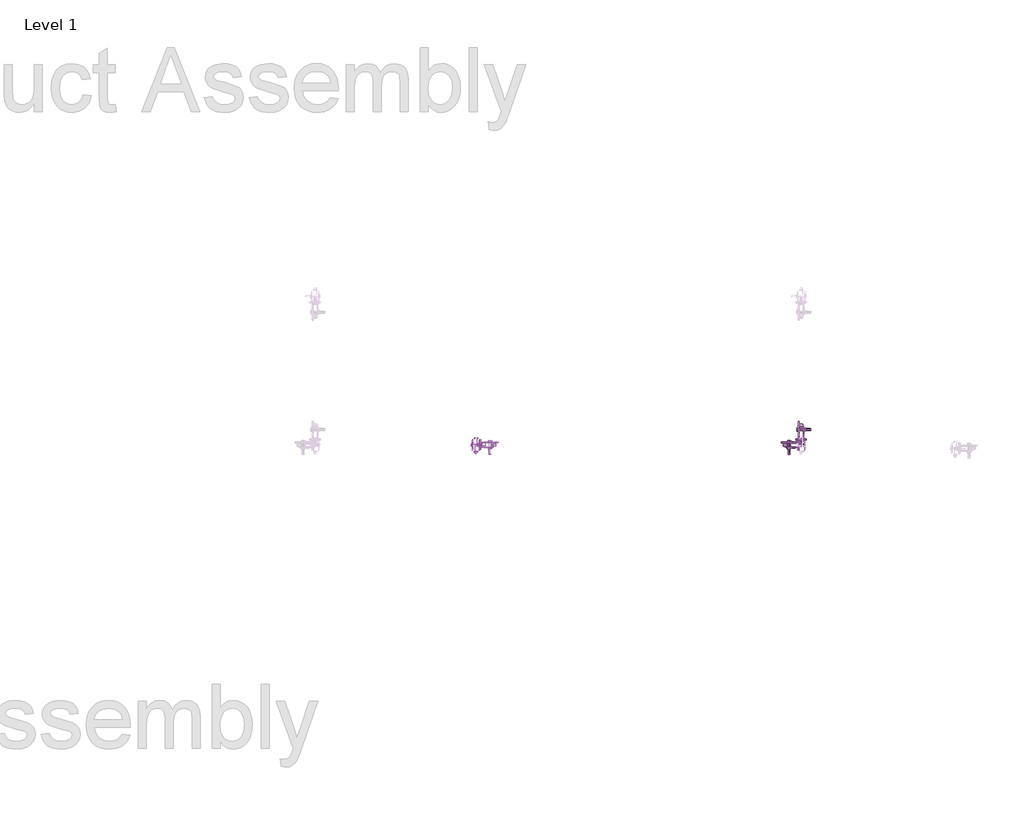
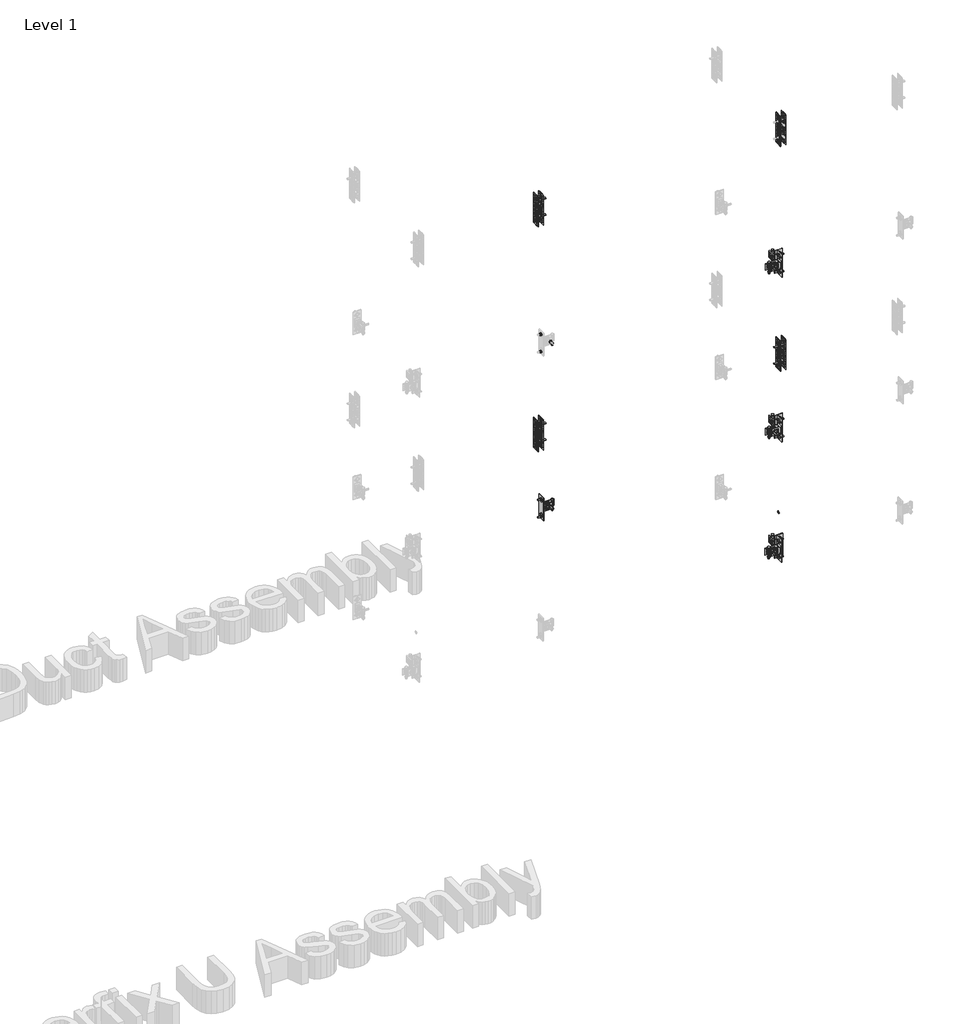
# One storey, part 14 of 32: 143 valves.
"""IFC4 building model written with IfcOpenShell, lengths in millimetres."""

from ifc_helpers import new_model, si_unit, origin, place, context, project, spatial, transform, mapped, element, save
from components import valve_fad8a5b8, hexagon_nut_galvanized_extra_m8_53389388, superfix_hexagon_screw_galvanized_8354a985, superfix_hexagon_screw_galvanized_f0d66714, superfix_hexagon_screw_galvanized_68d17cb7, superfix_hexagon_screw_galvanized_e39b877e, superfix_hexagon_screw_galvanized_3ef5af78, superfix_hexagon_screw_galvanized_3d7df342, superfix_strap_981cfdac, superfix_u_bracket_h_0b8578fe, superfix_u_bracket_h_f60a1122

model = new_model("IFC4")

# Units and contexts
model_context = context("Model", 3, world=origin())
ifc_project = project(units=[si_unit("LENGTHUNIT", "METRE", prefix="MILLI")], contexts=[model_context])

# Site, building, storey
site = spatial("IfcSite", under=ifc_project)
building = spatial("IfcBuilding", under=site)
storey = spatial("IfcBuildingStorey", under=building, Name="Level 1", Elevation=0.0)

# Valves
placement = place(None, origin())
valve_shape = valve_fad8a5b8(model_context)
element("IfcValve", 1, ObjectType="Superfix Flat Washer : Superfix Flat Washer M8x15x1.5", at=placement, inside=storey, context=model_context, shape_type="MappedRepresentation", body=[
    mapped(valve_shape, transform((-16478.3949112, 28765.46055, 700.0), x_axis=(1.0, 0.0, 0.0), y_axis=(0.0, 0.0, 1.0), z_axis=(0.0, -1.0, 0.0))),
])
element("IfcValve", 2, ObjectType="Superfix Flat Washer : Superfix Flat Washer M8x15x1.5", at=placement, inside=storey, context=model_context, shape_type="MappedRepresentation", body=[
    mapped(valve_shape, transform((-16427.3949112, 28777.96055, 758.0), x_axis=(0.0, 0.0, 1.0), y_axis=(0.0, 1.0, 0.0), z_axis=(-1.0, 0.0, 0.0))),
])
element("IfcValve", 3, ObjectType="Superfix Flat Washer : Superfix Flat Washer M8x15x1.5", at=placement, inside=storey, context=model_context, shape_type="MappedRepresentation", body=[
    mapped(valve_shape, transform((-16427.3949112, 28777.96055, 642.0), x_axis=(0.0, 0.0, 1.0), y_axis=(0.0, 1.0, 0.0), z_axis=(-1.0, 0.0, 0.0))),
])
element("IfcValve", 4, ObjectType="Superfix Flat Washer : Superfix Flat Washer M8x15x1.5", at=placement, inside=storey, context=model_context, shape_type="MappedRepresentation", body=[
    mapped(valve_shape, transform((-16498.3949112, 28777.96055, 671.5), x_axis=(1.0, 0.0, 0.0), y_axis=(0.0, -1.0, 0.0), z_axis=(0.0, 0.0, -1.0))),
])
element("IfcValve", 5, ObjectType="Superfix Flat Washer : Superfix Flat Washer M8x15x1.5", at=placement, inside=storey, context=model_context, shape_type="MappedRepresentation", body=[
    mapped(valve_shape, transform((-16475.3949112, 28765.46055, 2600.0), x_axis=(1.0, 0.0, 0.0), y_axis=(0.0, 0.0, 1.0), z_axis=(0.0, -1.0, 0.0))),
])
element("IfcValve", 6, ObjectType="Superfix Flat Washer : Superfix Flat Washer M8x15x1.5", at=placement, inside=storey, context=model_context, shape_type="MappedRepresentation", body=[
    mapped(valve_shape, transform((-17885.3949112, 28765.46055, 2600.0), x_axis=(1.0, 0.0, 0.0), y_axis=(0.0, 0.0, 1.0), z_axis=(0.0, -1.0, 0.0))),
])
element("IfcValve", 7, ObjectType="Superfix Flat Washer : Superfix Flat Washer M8x15x1.5", at=placement, inside=storey, context=model_context, shape_type="MappedRepresentation", body=[
    mapped(valve_shape, transform((-16424.3949112, 28777.96055, 2658.0), x_axis=(0.0, 0.0, 1.0), y_axis=(0.0, 1.0, 0.0), z_axis=(-1.0, 0.0, 0.0))),
])
element("IfcValve", 8, ObjectType="Superfix Flat Washer : Superfix Flat Washer M8x15x1.5", at=placement, inside=storey, context=model_context, shape_type="MappedRepresentation", body=[
    mapped(valve_shape, transform((-17934.7949112, 28777.96055, 2542.0), x_axis=(0.0, 0.0, 1.0), y_axis=(0.0, 1.0, 0.0), z_axis=(-1.0, 0.0, 0.0))),
])
element("IfcValve", 9, ObjectType="Superfix Flat Washer : Superfix Flat Washer M8x15x1.5", at=placement, inside=storey, context=model_context, shape_type="MappedRepresentation", body=[
    mapped(valve_shape, transform((-16424.3949112, 28777.96055, 2542.0), x_axis=(0.0, 0.0, 1.0), y_axis=(0.0, 1.0, 0.0), z_axis=(-1.0, 0.0, 0.0))),
])
element("IfcValve", 10, ObjectType="Superfix Flat Washer : Superfix Flat Washer M8x15x1.5", at=placement, inside=storey, context=model_context, shape_type="MappedRepresentation", body=[
    mapped(valve_shape, transform((-17934.7949112, 28777.96055, 2658.0), x_axis=(0.0, 0.0, 1.0), y_axis=(0.0, 1.0, 0.0), z_axis=(-1.0, 0.0, 0.0))),
])
element("IfcValve", 11, ObjectType="Superfix Flat Washer : Superfix Flat Washer M8x15x1.5", at=placement, inside=storey, context=model_context, shape_type="MappedRepresentation", body=[
    mapped(valve_shape, transform((-17865.3949112, 28777.96055, 2571.5), x_axis=(1.0, 0.0, 0.0), y_axis=(0.0, -1.0, 0.0), z_axis=(0.0, 0.0, -1.0))),
])
element("IfcValve", 12, ObjectType="Superfix Flat Washer : Superfix Flat Washer M8x15x1.5", at=placement, inside=storey, context=model_context, shape_type="MappedRepresentation", body=[
    mapped(valve_shape, transform((-16495.3949112, 28777.96055, 2571.5), x_axis=(1.0, 0.0, 0.0), y_axis=(0.0, -1.0, 0.0), z_axis=(0.0, 0.0, -1.0))),
])
element("IfcValve", 13, ObjectType="Superfix Flat Washer : Superfix Flat Washer M8x15x1.5", at=placement, inside=storey, context=model_context, shape_type="MappedRepresentation", body=[
    mapped(valve_shape, transform((-16475.3949112, 28765.46055, 1500.0), x_axis=(1.0, 0.0, 0.0), y_axis=(0.0, 0.0, 1.0), z_axis=(0.0, -1.0, 0.0))),
])
element("IfcValve", 14, ObjectType="Superfix Flat Washer : Superfix Flat Washer M8x15x1.5", at=placement, inside=storey, context=model_context, shape_type="MappedRepresentation", body=[
    mapped(valve_shape, transform((-17885.3949112, 28765.46055, 1500.0), x_axis=(1.0, 0.0, 0.0), y_axis=(0.0, 0.0, 1.0), z_axis=(0.0, -1.0, 0.0))),
])
element("IfcValve", 15, ObjectType="Superfix Flat Washer : Superfix Flat Washer M8x15x1.5", at=placement, inside=storey, context=model_context, shape_type="MappedRepresentation", body=[
    mapped(valve_shape, transform((-16424.3949112, 28777.96055, 1558.0), x_axis=(0.0, 0.0, 1.0), y_axis=(0.0, 1.0, 0.0), z_axis=(-1.0, 0.0, 0.0))),
])
element("IfcValve", 16, ObjectType="Superfix Flat Washer : Superfix Flat Washer M8x15x1.5", at=placement, inside=storey, context=model_context, shape_type="MappedRepresentation", body=[
    mapped(valve_shape, transform((-17934.7949112, 28777.96055, 1442.0), x_axis=(0.0, 0.0, 1.0), y_axis=(0.0, 1.0, 0.0), z_axis=(-1.0, 0.0, 0.0))),
])
element("IfcValve", 17, ObjectType="Superfix Flat Washer : Superfix Flat Washer M8x15x1.5", at=placement, inside=storey, context=model_context, shape_type="MappedRepresentation", body=[
    mapped(valve_shape, transform((-16424.3949112, 28777.96055, 1442.0), x_axis=(0.0, 0.0, 1.0), y_axis=(0.0, 1.0, 0.0), z_axis=(-1.0, 0.0, 0.0))),
])
element("IfcValve", 18, ObjectType="Superfix Flat Washer : Superfix Flat Washer M8x15x1.5", at=placement, inside=storey, context=model_context, shape_type="MappedRepresentation", body=[
    mapped(valve_shape, transform((-17934.7949112, 28777.96055, 1558.0), x_axis=(0.0, 0.0, 1.0), y_axis=(0.0, 1.0, 0.0), z_axis=(-1.0, 0.0, 0.0))),
])
element("IfcValve", 19, ObjectType="Superfix Flat Washer : Superfix Flat Washer M8x15x1.5", at=placement, inside=storey, context=model_context, shape_type="MappedRepresentation", body=[
    mapped(valve_shape, transform((-17865.3949112, 28777.96055, 1471.5), x_axis=(1.0, 0.0, 0.0), y_axis=(0.0, -1.0, 0.0), z_axis=(0.0, 0.0, -1.0))),
])
element("IfcValve", 20, ObjectType="Superfix Flat Washer : Superfix Flat Washer M8x15x1.5", at=placement, inside=storey, context=model_context, shape_type="MappedRepresentation", body=[
    mapped(valve_shape, transform((-16495.3949112, 28777.96055, 1471.5), x_axis=(1.0, 0.0, 0.0), y_axis=(0.0, -1.0, 0.0), z_axis=(0.0, 0.0, -1.0))),
])
element("IfcValve", 21, ObjectType="Superfix Flat Washer : Superfix Flat Washer M8x15x1.5", at=placement, inside=storey, context=model_context, shape_type="MappedRepresentation", body=[
    mapped(valve_shape, transform((-16407.8949112, 28851.96055, 2600.0), x_axis=(0.0, 1.0, 0.0), y_axis=(0.0, 0.0, 1.0), z_axis=(1.0, 0.0, 0.0))),
])
element("IfcValve", 22, ObjectType="Superfix Flat Washer : Superfix Flat Washer M8x15x1.5", at=placement, inside=storey, context=model_context, shape_type="MappedRepresentation", body=[
    mapped(valve_shape, transform((-16420.3949112, 28802.56055, 2542.0), x_axis=(0.0, 0.0, 1.0), y_axis=(-1.0, 0.0, 0.0), z_axis=(0.0, -1.0, 0.0))),
])
element("IfcValve", 23, ObjectType="Superfix Flat Washer : Superfix Flat Washer M8x15x1.5", at=placement, inside=storey, context=model_context, shape_type="MappedRepresentation", body=[
    mapped(valve_shape, transform((-16420.3949112, 28802.56055, 2658.0), x_axis=(0.0, 0.0, 1.0), y_axis=(-1.0, 0.0, 0.0), z_axis=(0.0, -1.0, 0.0))),
])
element("IfcValve", 24, ObjectType="Superfix Flat Washer : Superfix Flat Washer M8x15x1.5", at=placement, inside=storey, context=model_context, shape_type="MappedRepresentation", body=[
    mapped(valve_shape, transform((-16420.3949112, 28871.96055, 2571.5), x_axis=(0.0, 1.0, 0.0), y_axis=(1.0, 0.0, 0.0), z_axis=(0.0, 0.0, -1.0))),
])
element("IfcValve", 25, ObjectType="Superfix Flat Washer : Superfix Flat Washer M8x15x1.5", at=placement, inside=storey, context=model_context, shape_type="MappedRepresentation", body=[
    mapped(valve_shape, transform((-16407.8949112, 28851.96055, 1500.0), x_axis=(0.0, 1.0, 0.0), y_axis=(0.0, 0.0, 1.0), z_axis=(1.0, 0.0, 0.0))),
])
element("IfcValve", 26, ObjectType="Superfix Flat Washer : Superfix Flat Washer M8x15x1.5", at=placement, inside=storey, context=model_context, shape_type="MappedRepresentation", body=[
    mapped(valve_shape, transform((-16420.3949112, 28802.56055, 1442.0), x_axis=(0.0, 0.0, 1.0), y_axis=(-1.0, 0.0, 0.0), z_axis=(0.0, -1.0, 0.0))),
])
element("IfcValve", 27, ObjectType="Superfix Flat Washer : Superfix Flat Washer M8x15x1.5", at=placement, inside=storey, context=model_context, shape_type="MappedRepresentation", body=[
    mapped(valve_shape, transform((-16420.3949112, 28802.56055, 1558.0), x_axis=(0.0, 0.0, 1.0), y_axis=(-1.0, 0.0, 0.0), z_axis=(0.0, -1.0, 0.0))),
])
element("IfcValve", 28, ObjectType="Superfix Flat Washer : Superfix Flat Washer M8x15x1.5", at=placement, inside=storey, context=model_context, shape_type="MappedRepresentation", body=[
    mapped(valve_shape, transform((-16420.3949112, 28871.96055, 1471.5), x_axis=(0.0, 1.0, 0.0), y_axis=(1.0, 0.0, 0.0), z_axis=(0.0, 0.0, -1.0))),
])
element("IfcValve", 29, ObjectType="Superfix Flat Washer : Superfix Flat Washer M8x15x1.5", at=placement, inside=storey, context=model_context, shape_type="MappedRepresentation", body=[
    mapped(valve_shape, transform((-16407.8949112, 28850.96055, 700.0), x_axis=(0.0, 1.0, 0.0), y_axis=(0.0, 0.0, 1.0), z_axis=(1.0, 0.0, 0.0))),
])
element("IfcValve", 30, ObjectType="Superfix Flat Washer : Superfix Flat Washer M8x15x1.5", at=placement, inside=storey, context=model_context, shape_type="MappedRepresentation", body=[
    mapped(valve_shape, transform((-16420.3949112, 28801.56055, 642.0), x_axis=(0.0, 0.0, 1.0), y_axis=(-1.0, 0.0, 0.0), z_axis=(0.0, -1.0, 0.0))),
])
element("IfcValve", 31, ObjectType="Superfix Flat Washer : Superfix Flat Washer M8x15x1.5", at=placement, inside=storey, context=model_context, shape_type="MappedRepresentation", body=[
    mapped(valve_shape, transform((-16420.3949112, 28801.56055, 758.0), x_axis=(0.0, 0.0, 1.0), y_axis=(-1.0, 0.0, 0.0), z_axis=(0.0, -1.0, 0.0))),
])
element("IfcValve", 32, ObjectType="Superfix Flat Washer : Superfix Flat Washer M8x15x1.5", at=placement, inside=storey, context=model_context, shape_type="MappedRepresentation", body=[
    mapped(valve_shape, transform((-16420.3949112, 28870.96055, 671.5), x_axis=(0.0, 1.0, 0.0), y_axis=(1.0, 0.0, 0.0), z_axis=(0.0, 0.0, -1.0))),
])
element("IfcValve", 33, ObjectType="Superfix Flat Washer : Superfix Flat Washer M8x15x1.5", at=placement, inside=storey, context=model_context, shape_type="MappedRepresentation", body=[
    mapped(valve_shape, transform((-16437.9949112, 28777.96055, 2055.0), x_axis=(0.0, 1.0, 0.0), y_axis=(0.0, 0.0, 1.0), z_axis=(1.0, 0.0, 0.0))),
])
element("IfcValve", 34, ObjectType="Superfix Flat Washer : Superfix Flat Washer M8x15x1.5", at=placement, inside=storey, context=model_context, shape_type="MappedRepresentation", body=[
    mapped(valve_shape, transform((-16437.9949112, 28777.96055, 945.0), x_axis=(0.0, 1.0, 0.0), y_axis=(0.0, 0.0, 1.0), z_axis=(1.0, 0.0, 0.0))),
])
element("IfcValve", 35, ObjectType="Superfix Flat Washer : Superfix Flat Washer M8x15x1.5", at=placement, inside=storey, context=model_context, shape_type="MappedRepresentation", body=[
    mapped(valve_shape, transform((-17936.3949112, 28777.96055, 1945.0), x_axis=(0.0, 1.0, 0.0), y_axis=(0.0, 0.0, 1.0), z_axis=(1.0, 0.0, 0.0))),
])
element("IfcValve", 36, ObjectType="Superfix Flat Washer : Superfix Flat Washer M8x15x1.5", at=placement, inside=storey, context=model_context, shape_type="MappedRepresentation", body=[
    mapped(valve_shape, transform((-17936.3949112, 28777.96055, 2055.0), x_axis=(0.0, 1.0, 0.0), y_axis=(0.0, 0.0, 1.0), z_axis=(1.0, 0.0, 0.0))),
])
element("IfcValve", 37, ObjectType="Superfix Flat Washer : Superfix Flat Washer M8x15x1.5", at=placement, inside=storey, context=model_context, shape_type="MappedRepresentation", body=[
    mapped(valve_shape, transform((-16420.3949112, 28749.46055, 2040.0), x_axis=(1.0, 0.0, 0.0), y_axis=(0.0, 0.0, 1.0), z_axis=(0.0, -1.0, 0.0))),
])
element("IfcValve", 38, ObjectType="Superfix Flat Washer : Superfix Flat Washer M8x15x1.5", at=placement, inside=storey, context=model_context, shape_type="MappedRepresentation", body=[
    mapped(valve_shape, transform((-16420.3949112, 28749.46055, 1960.0), x_axis=(1.0, 0.0, 0.0), y_axis=(0.0, 0.0, 1.0), z_axis=(0.0, -1.0, 0.0))),
])
element("IfcValve", 39, ObjectType="Superfix Flat Washer : Superfix Flat Washer M8x15x1.5", at=placement, inside=storey, context=model_context, shape_type="MappedRepresentation", body=[
    mapped(valve_shape, transform((-17952.3949112, 28749.46055, 2040.0), x_axis=(1.0, 0.0, 0.0), y_axis=(0.0, 0.0, 1.0), z_axis=(0.0, -1.0, 0.0))),
])
element("IfcValve", 40, ObjectType="Superfix Flat Washer : Superfix Flat Washer M8x15x1.5", at=placement, inside=storey, context=model_context, shape_type="MappedRepresentation", body=[
    mapped(valve_shape, transform((-17952.3949112, 28749.46055, 1960.0), x_axis=(1.0, 0.0, 0.0), y_axis=(0.0, 0.0, 1.0), z_axis=(0.0, -1.0, 0.0))),
])
element("IfcValve", 41, ObjectType="Superfix Flat Washer : Superfix Flat Washer M8x15x1.5", at=placement, inside=storey, context=model_context, shape_type="MappedRepresentation", body=[
    mapped(valve_shape, transform((-17936.3949112, 28777.96055, 3445.0), x_axis=(0.0, 1.0, 0.0), y_axis=(0.0, 0.0, 1.0), z_axis=(1.0, 0.0, 0.0))),
])
element("IfcValve", 42, ObjectType="Superfix Flat Washer : Superfix Flat Washer M8x15x1.5", at=placement, inside=storey, context=model_context, shape_type="MappedRepresentation", body=[
    mapped(valve_shape, transform((-17936.3949112, 28777.96055, 3555.0), x_axis=(0.0, 1.0, 0.0), y_axis=(0.0, 0.0, 1.0), z_axis=(1.0, 0.0, 0.0))),
])
element("IfcValve", 43, ObjectType="Superfix Flat Washer : Superfix Flat Washer M8x15x1.5", at=placement, inside=storey, context=model_context, shape_type="MappedRepresentation", body=[
    mapped(valve_shape, transform((-17952.3949112, 28749.46055, 3540.0), x_axis=(1.0, 0.0, 0.0), y_axis=(0.0, 0.0, 1.0), z_axis=(0.0, -1.0, 0.0))),
])
element("IfcValve", 44, ObjectType="Superfix Flat Washer : Superfix Flat Washer M8x15x1.5", at=placement, inside=storey, context=model_context, shape_type="MappedRepresentation", body=[
    mapped(valve_shape, transform((-17952.3949112, 28749.46055, 3460.0), x_axis=(1.0, 0.0, 0.0), y_axis=(0.0, 0.0, 1.0), z_axis=(0.0, -1.0, 0.0))),
])
hexagon_nut_galvanized_extra_m8_shape = hexagon_nut_galvanized_extra_m8_53389388(model_context)
element("IfcValve", 45, ObjectType="Superfix Hexagon Nut Galvanized : Hexagon Nut Galvanized M8", at=placement, inside=storey, context=model_context, shape_type="MappedRepresentation", body=[
    mapped(hexagon_nut_galvanized_extra_m8_shape, transform((-16478.3949112, 28765.46055, 700.0), x_axis=(1.0, 0.0, 0.0), y_axis=(0.0, 0.0, 1.0), z_axis=(0.0, -1.0, 0.0))),
])
element("IfcValve", 46, ObjectType="Superfix Hexagon Nut Galvanized : Hexagon Nut Galvanized M8", at=placement, inside=storey, context=model_context, shape_type="MappedRepresentation", body=[
    mapped(hexagon_nut_galvanized_extra_m8_shape, transform((-16498.3949112, 28777.96055, 665.0), x_axis=(0.0, 1.0, 0.0), y_axis=(-1.0, 0.0, 0.0), z_axis=(0.0, 0.0, 1.0))),
])
element("IfcValve", 47, ObjectType="Superfix Hexagon Nut Galvanized : Hexagon Nut Galvanized M8", at=placement, inside=storey, context=model_context, shape_type="MappedRepresentation", body=[
    mapped(hexagon_nut_galvanized_extra_m8_shape, transform((-16420.8949112, 28777.96055, 642.0), x_axis=(0.0, 0.0, 1.0), y_axis=(0.0, 1.0, 0.0), z_axis=(-1.0, 0.0, 0.0))),
])
element("IfcValve", 48, ObjectType="Superfix Hexagon Nut Galvanized : Hexagon Nut Galvanized M8", at=placement, inside=storey, context=model_context, shape_type="MappedRepresentation", body=[
    mapped(hexagon_nut_galvanized_extra_m8_shape, transform((-16420.8949112, 28777.96055, 758.0), x_axis=(0.0, 0.0, 1.0), y_axis=(0.0, 1.0, 0.0), z_axis=(-1.0, 0.0, 0.0))),
])
element("IfcValve", 49, ObjectType="Superfix Hexagon Nut Galvanized : Hexagon Nut Galvanized M8", at=placement, inside=storey, context=model_context, shape_type="MappedRepresentation", body=[
    mapped(hexagon_nut_galvanized_extra_m8_shape, transform((-16475.3949112, 28765.46055, 2600.0), x_axis=(1.0, 0.0, 0.0), y_axis=(0.0, 0.0, 1.0), z_axis=(0.0, -1.0, 0.0))),
])
element("IfcValve", 50, ObjectType="Superfix Hexagon Nut Galvanized : Hexagon Nut Galvanized M8", at=placement, inside=storey, context=model_context, shape_type="MappedRepresentation", body=[
    mapped(hexagon_nut_galvanized_extra_m8_shape, transform((-16495.3949112, 28777.96055, 2565.0), x_axis=(0.0, 1.0, 0.0), y_axis=(-1.0, 0.0, 0.0), z_axis=(0.0, 0.0, 1.0))),
])
element("IfcValve", 51, ObjectType="Superfix Hexagon Nut Galvanized : Hexagon Nut Galvanized M8", at=placement, inside=storey, context=model_context, shape_type="MappedRepresentation", body=[
    mapped(hexagon_nut_galvanized_extra_m8_shape, transform((-16417.8949112, 28777.96055, 2542.0), x_axis=(0.0, 0.0, 1.0), y_axis=(0.0, 1.0, 0.0), z_axis=(-1.0, 0.0, 0.0))),
])
element("IfcValve", 52, ObjectType="Superfix Hexagon Nut Galvanized : Hexagon Nut Galvanized M8", at=placement, inside=storey, context=model_context, shape_type="MappedRepresentation", body=[
    mapped(hexagon_nut_galvanized_extra_m8_shape, transform((-16417.8949112, 28777.96055, 2658.0), x_axis=(0.0, 0.0, 1.0), y_axis=(0.0, 1.0, 0.0), z_axis=(-1.0, 0.0, 0.0))),
])
element("IfcValve", 53, ObjectType="Superfix Hexagon Nut Galvanized : Hexagon Nut Galvanized M8", at=placement, inside=storey, context=model_context, shape_type="MappedRepresentation", body=[
    mapped(hexagon_nut_galvanized_extra_m8_shape, transform((-16475.3949112, 28765.46055, 1500.0), x_axis=(1.0, 0.0, 0.0), y_axis=(0.0, 0.0, 1.0), z_axis=(0.0, -1.0, 0.0))),
])
element("IfcValve", 54, ObjectType="Superfix Hexagon Nut Galvanized : Hexagon Nut Galvanized M8", at=placement, inside=storey, context=model_context, shape_type="MappedRepresentation", body=[
    mapped(hexagon_nut_galvanized_extra_m8_shape, transform((-16495.3949112, 28777.96055, 1465.0), x_axis=(0.0, 1.0, 0.0), y_axis=(-1.0, 0.0, 0.0), z_axis=(0.0, 0.0, 1.0))),
])
element("IfcValve", 55, ObjectType="Superfix Hexagon Nut Galvanized : Hexagon Nut Galvanized M8", at=placement, inside=storey, context=model_context, shape_type="MappedRepresentation", body=[
    mapped(hexagon_nut_galvanized_extra_m8_shape, transform((-16417.8949112, 28777.96055, 1442.0), x_axis=(0.0, 0.0, 1.0), y_axis=(0.0, 1.0, 0.0), z_axis=(-1.0, 0.0, 0.0))),
])
element("IfcValve", 56, ObjectType="Superfix Hexagon Nut Galvanized : Hexagon Nut Galvanized M8", at=placement, inside=storey, context=model_context, shape_type="MappedRepresentation", body=[
    mapped(hexagon_nut_galvanized_extra_m8_shape, transform((-16417.8949112, 28777.96055, 1558.0), x_axis=(0.0, 0.0, 1.0), y_axis=(0.0, 1.0, 0.0), z_axis=(-1.0, 0.0, 0.0))),
])
element("IfcValve", 57, ObjectType="Superfix Hexagon Nut Galvanized : Hexagon Nut Galvanized M8", at=placement, inside=storey, context=model_context, shape_type="MappedRepresentation", body=[
    mapped(hexagon_nut_galvanized_extra_m8_shape, transform((-17885.3949112, 28765.46055, 2600.0), x_axis=(-1.0, 0.0, 0.0), y_axis=(0.0, 0.0, -1.0), z_axis=(0.0, -1.0, 0.0))),
])
element("IfcValve", 58, ObjectType="Superfix Hexagon Nut Galvanized : Hexagon Nut Galvanized M8", at=placement, inside=storey, context=model_context, shape_type="MappedRepresentation", body=[
    mapped(hexagon_nut_galvanized_extra_m8_shape, transform((-17865.3949112, 28777.96055, 2565.0), x_axis=(0.0, 1.0, 0.0), y_axis=(-1.0, 0.0, 0.0), z_axis=(0.0, 0.0, 1.0))),
])
element("IfcValve", 59, ObjectType="Superfix Hexagon Nut Galvanized : Hexagon Nut Galvanized M8", at=placement, inside=storey, context=model_context, shape_type="MappedRepresentation", body=[
    mapped(hexagon_nut_galvanized_extra_m8_shape, transform((-17942.8949112, 28777.96055, 2542.0), x_axis=(0.0, 0.0, 1.0), y_axis=(0.0, -1.0, 0.0), z_axis=(1.0, 0.0, 0.0))),
])
element("IfcValve", 60, ObjectType="Superfix Hexagon Nut Galvanized : Hexagon Nut Galvanized M8", at=placement, inside=storey, context=model_context, shape_type="MappedRepresentation", body=[
    mapped(hexagon_nut_galvanized_extra_m8_shape, transform((-17942.8949112, 28777.96055, 2658.0), x_axis=(0.0, 0.0, 1.0), y_axis=(0.0, -1.0, 0.0), z_axis=(1.0, 0.0, 0.0))),
])
element("IfcValve", 61, ObjectType="Superfix Hexagon Nut Galvanized : Hexagon Nut Galvanized M8", at=placement, inside=storey, context=model_context, shape_type="MappedRepresentation", body=[
    mapped(hexagon_nut_galvanized_extra_m8_shape, transform((-17885.3949112, 28765.46055, 1500.0), x_axis=(-1.0, 0.0, 0.0), y_axis=(0.0, 0.0, -1.0), z_axis=(0.0, -1.0, 0.0))),
])
element("IfcValve", 62, ObjectType="Superfix Hexagon Nut Galvanized : Hexagon Nut Galvanized M8", at=placement, inside=storey, context=model_context, shape_type="MappedRepresentation", body=[
    mapped(hexagon_nut_galvanized_extra_m8_shape, transform((-17865.3949112, 28777.96055, 1465.0), x_axis=(0.0, 1.0, 0.0), y_axis=(-1.0, 0.0, 0.0), z_axis=(0.0, 0.0, 1.0))),
])
element("IfcValve", 63, ObjectType="Superfix Hexagon Nut Galvanized : Hexagon Nut Galvanized M8", at=placement, inside=storey, context=model_context, shape_type="MappedRepresentation", body=[
    mapped(hexagon_nut_galvanized_extra_m8_shape, transform((-17942.8949112, 28777.96055, 1442.0), x_axis=(0.0, 0.0, 1.0), y_axis=(0.0, -1.0, 0.0), z_axis=(1.0, 0.0, 0.0))),
])
element("IfcValve", 64, ObjectType="Superfix Hexagon Nut Galvanized : Hexagon Nut Galvanized M8", at=placement, inside=storey, context=model_context, shape_type="MappedRepresentation", body=[
    mapped(hexagon_nut_galvanized_extra_m8_shape, transform((-17942.8949112, 28777.96055, 1558.0), x_axis=(0.0, 0.0, 1.0), y_axis=(0.0, -1.0, 0.0), z_axis=(1.0, 0.0, 0.0))),
])
element("IfcValve", 65, ObjectType="Superfix Hexagon Nut Galvanized : Hexagon Nut Galvanized M8", at=placement, inside=storey, context=model_context, shape_type="MappedRepresentation", body=[
    mapped(hexagon_nut_galvanized_extra_m8_shape, transform((-16407.8949112, 28851.96055, 2600.0), x_axis=(0.0, -1.0, 0.0), y_axis=(0.0, 0.0, -1.0), z_axis=(1.0, 0.0, 0.0))),
])
element("IfcValve", 66, ObjectType="Superfix Hexagon Nut Galvanized : Hexagon Nut Galvanized M8", at=placement, inside=storey, context=model_context, shape_type="MappedRepresentation", body=[
    mapped(hexagon_nut_galvanized_extra_m8_shape, transform((-16420.3949112, 28871.96055, 2565.0), x_axis=(-1.0, 0.0, 0.0), y_axis=(0.0, -1.0, 0.0), z_axis=(0.0, 0.0, 1.0))),
])
element("IfcValve", 67, ObjectType="Superfix Hexagon Nut Galvanized : Hexagon Nut Galvanized M8", at=placement, inside=storey, context=model_context, shape_type="MappedRepresentation", body=[
    mapped(hexagon_nut_galvanized_extra_m8_shape, transform((-16420.3949112, 28794.46055, 2542.0), x_axis=(0.0, 0.0, 1.0), y_axis=(1.0, 0.0, 0.0), z_axis=(0.0, 1.0, 0.0))),
])
element("IfcValve", 68, ObjectType="Superfix Hexagon Nut Galvanized : Hexagon Nut Galvanized M8", at=placement, inside=storey, context=model_context, shape_type="MappedRepresentation", body=[
    mapped(hexagon_nut_galvanized_extra_m8_shape, transform((-16420.3949112, 28794.46055, 2658.0), x_axis=(0.0, 0.0, 1.0), y_axis=(1.0, 0.0, 0.0), z_axis=(0.0, 1.0, 0.0))),
])
element("IfcValve", 69, ObjectType="Superfix Hexagon Nut Galvanized : Hexagon Nut Galvanized M8", at=placement, inside=storey, context=model_context, shape_type="MappedRepresentation", body=[
    mapped(hexagon_nut_galvanized_extra_m8_shape, transform((-16407.8949112, 28851.96055, 1500.0), x_axis=(0.0, -1.0, 0.0), y_axis=(0.0, 0.0, -1.0), z_axis=(1.0, 0.0, 0.0))),
])
element("IfcValve", 70, ObjectType="Superfix Hexagon Nut Galvanized : Hexagon Nut Galvanized M8", at=placement, inside=storey, context=model_context, shape_type="MappedRepresentation", body=[
    mapped(hexagon_nut_galvanized_extra_m8_shape, transform((-16420.3949112, 28871.96055, 1465.0), x_axis=(-1.0, 0.0, 0.0), y_axis=(0.0, -1.0, 0.0), z_axis=(0.0, 0.0, 1.0))),
])
element("IfcValve", 71, ObjectType="Superfix Hexagon Nut Galvanized : Hexagon Nut Galvanized M8", at=placement, inside=storey, context=model_context, shape_type="MappedRepresentation", body=[
    mapped(hexagon_nut_galvanized_extra_m8_shape, transform((-16420.3949112, 28794.46055, 1442.0), x_axis=(0.0, 0.0, 1.0), y_axis=(1.0, 0.0, 0.0), z_axis=(0.0, 1.0, 0.0))),
])
element("IfcValve", 72, ObjectType="Superfix Hexagon Nut Galvanized : Hexagon Nut Galvanized M8", at=placement, inside=storey, context=model_context, shape_type="MappedRepresentation", body=[
    mapped(hexagon_nut_galvanized_extra_m8_shape, transform((-16420.3949112, 28794.46055, 1558.0), x_axis=(0.0, 0.0, 1.0), y_axis=(1.0, 0.0, 0.0), z_axis=(0.0, 1.0, 0.0))),
])
element("IfcValve", 73, ObjectType="Superfix Hexagon Nut Galvanized : Hexagon Nut Galvanized M8", at=placement, inside=storey, context=model_context, shape_type="MappedRepresentation", body=[
    mapped(hexagon_nut_galvanized_extra_m8_shape, transform((-16407.8949112, 28850.96055, 700.0), x_axis=(0.0, -1.0, 0.0), y_axis=(0.0, 0.0, -1.0), z_axis=(1.0, 0.0, 0.0))),
])
element("IfcValve", 74, ObjectType="Superfix Hexagon Nut Galvanized : Hexagon Nut Galvanized M8", at=placement, inside=storey, context=model_context, shape_type="MappedRepresentation", body=[
    mapped(hexagon_nut_galvanized_extra_m8_shape, transform((-16420.3949112, 28870.96055, 665.0), x_axis=(-1.0, 0.0, 0.0), y_axis=(0.0, -1.0, 0.0), z_axis=(0.0, 0.0, 1.0))),
])
element("IfcValve", 75, ObjectType="Superfix Hexagon Nut Galvanized : Hexagon Nut Galvanized M8", at=placement, inside=storey, context=model_context, shape_type="MappedRepresentation", body=[
    mapped(hexagon_nut_galvanized_extra_m8_shape, transform((-16420.3949112, 28793.46055, 642.0), x_axis=(0.0, 0.0, 1.0), y_axis=(1.0, 0.0, 0.0), z_axis=(0.0, 1.0, 0.0))),
])
element("IfcValve", 76, ObjectType="Superfix Hexagon Nut Galvanized : Hexagon Nut Galvanized M8", at=placement, inside=storey, context=model_context, shape_type="MappedRepresentation", body=[
    mapped(hexagon_nut_galvanized_extra_m8_shape, transform((-16420.3949112, 28793.46055, 758.0), x_axis=(0.0, 0.0, 1.0), y_axis=(1.0, 0.0, 0.0), z_axis=(0.0, 1.0, 0.0))),
])
element("IfcValve", 77, ObjectType="Superfix Hexagon Nut Galvanized : Hexagon Nut Galvanized M8", at=placement, inside=storey, context=model_context, shape_type="MappedRepresentation", body=[
    mapped(hexagon_nut_galvanized_extra_m8_shape, transform((-16436.3949112, 28777.96055, 2055.0), x_axis=(0.0, 1.0, 0.0), y_axis=(0.0, 0.0, -1.0), z_axis=(-1.0, 0.0, 0.0))),
])
element("IfcValve", 78, ObjectType="Superfix Hexagon Nut Galvanized : Hexagon Nut Galvanized M8", at=placement, inside=storey, context=model_context, shape_type="MappedRepresentation", body=[
    mapped(hexagon_nut_galvanized_extra_m8_shape, transform((-17936.3949112, 28777.96055, 2055.0), x_axis=(0.0, 1.0, 0.0), y_axis=(0.0, 0.0, 1.0), z_axis=(1.0, 0.0, 0.0))),
])
element("IfcValve", 79, ObjectType="Superfix Hexagon Nut Galvanized : Hexagon Nut Galvanized M8", at=placement, inside=storey, context=model_context, shape_type="MappedRepresentation", body=[
    mapped(hexagon_nut_galvanized_extra_m8_shape, transform((-16436.3949112, 28777.96055, 1945.0), x_axis=(0.0, 1.0, 0.0), y_axis=(0.0, 0.0, -1.0), z_axis=(-1.0, 0.0, 0.0))),
])
element("IfcValve", 80, ObjectType="Superfix Hexagon Nut Galvanized : Hexagon Nut Galvanized M8", at=placement, inside=storey, context=model_context, shape_type="MappedRepresentation", body=[
    mapped(hexagon_nut_galvanized_extra_m8_shape, transform((-17936.3949112, 28777.96055, 1945.0), x_axis=(0.0, 1.0, 0.0), y_axis=(0.0, 0.0, 1.0), z_axis=(1.0, 0.0, 0.0))),
])
element("IfcValve", 81, ObjectType="Superfix Hexagon Nut Galvanized : Hexagon Nut Galvanized M8", at=placement, inside=storey, context=model_context, shape_type="MappedRepresentation", body=[
    mapped(hexagon_nut_galvanized_extra_m8_shape, transform((-16420.3949112, 28749.46055, 2040.0), x_axis=(1.0, 0.0, 0.0), y_axis=(0.0, 0.0, 1.0), z_axis=(0.0, -1.0, 0.0))),
])
element("IfcValve", 82, ObjectType="Superfix Hexagon Nut Galvanized : Hexagon Nut Galvanized M8", at=placement, inside=storey, context=model_context, shape_type="MappedRepresentation", body=[
    mapped(hexagon_nut_galvanized_extra_m8_shape, transform((-16420.3949112, 28749.46055, 1960.0), x_axis=(1.0, 0.0, 0.0), y_axis=(0.0, 0.0, 1.0), z_axis=(0.0, -1.0, 0.0))),
])
element("IfcValve", 83, ObjectType="Superfix Hexagon Nut Galvanized : Hexagon Nut Galvanized M8", at=placement, inside=storey, context=model_context, shape_type="MappedRepresentation", body=[
    mapped(hexagon_nut_galvanized_extra_m8_shape, transform((-17952.3949112, 28749.46055, 2040.0), x_axis=(1.0, 0.0, 0.0), y_axis=(0.0, 0.0, 1.0), z_axis=(0.0, -1.0, 0.0))),
])
element("IfcValve", 84, ObjectType="Superfix Hexagon Nut Galvanized : Hexagon Nut Galvanized M8", at=placement, inside=storey, context=model_context, shape_type="MappedRepresentation", body=[
    mapped(hexagon_nut_galvanized_extra_m8_shape, transform((-17952.3949112, 28749.46055, 1960.0), x_axis=(1.0, 0.0, 0.0), y_axis=(0.0, 0.0, 1.0), z_axis=(0.0, -1.0, 0.0))),
])
element("IfcValve", 85, ObjectType="Superfix Hexagon Nut Galvanized : Hexagon Nut Galvanized M8", at=placement, inside=storey, context=model_context, shape_type="MappedRepresentation", body=[
    mapped(hexagon_nut_galvanized_extra_m8_shape, transform((-17936.3949112, 28777.96055, 3555.0), x_axis=(0.0, 1.0, 0.0), y_axis=(0.0, 0.0, 1.0), z_axis=(1.0, 0.0, 0.0))),
])
element("IfcValve", 86, ObjectType="Superfix Hexagon Nut Galvanized : Hexagon Nut Galvanized M8", at=placement, inside=storey, context=model_context, shape_type="MappedRepresentation", body=[
    mapped(hexagon_nut_galvanized_extra_m8_shape, transform((-17936.3949112, 28777.96055, 3445.0), x_axis=(0.0, 1.0, 0.0), y_axis=(0.0, 0.0, 1.0), z_axis=(1.0, 0.0, 0.0))),
])
element("IfcValve", 87, ObjectType="Superfix Hexagon Nut Galvanized : Hexagon Nut Galvanized M8", at=placement, inside=storey, context=model_context, shape_type="MappedRepresentation", body=[
    mapped(hexagon_nut_galvanized_extra_m8_shape, transform((-17952.3949112, 28749.46055, 3540.0), x_axis=(1.0, 0.0, 0.0), y_axis=(0.0, 0.0, 1.0), z_axis=(0.0, -1.0, 0.0))),
])
element("IfcValve", 88, ObjectType="Superfix Hexagon Nut Galvanized : Hexagon Nut Galvanized M8", at=placement, inside=storey, context=model_context, shape_type="MappedRepresentation", body=[
    mapped(hexagon_nut_galvanized_extra_m8_shape, transform((-17952.3949112, 28749.46055, 3460.0), x_axis=(1.0, 0.0, 0.0), y_axis=(0.0, 0.0, 1.0), z_axis=(0.0, -1.0, 0.0))),
])
superfix_hexagon_screw_galvanized_shape = superfix_hexagon_screw_galvanized_8354a985(model_context)
element("IfcValve", 89, ObjectType="SuperFix Hexagon Screw Galvanized : Hexagon Screw Galvanized M8 × 25", at=placement, inside=storey, context=model_context, shape_type="MappedRepresentation", body=[
    mapped(superfix_hexagon_screw_galvanized_shape, transform((-17930.3949112, 28777.96055, 1558.0), x_axis=(0.0, 0.0, 1.0), y_axis=(0.0, -1.0, 0.0), z_axis=(1.0, 0.0, 0.0))),
])
element("IfcValve", 90, ObjectType="SuperFix Hexagon Screw Galvanized : Hexagon Screw Galvanized M8 × 25", at=placement, inside=storey, context=model_context, shape_type="MappedRepresentation", body=[
    mapped(superfix_hexagon_screw_galvanized_shape, transform((-17930.3949112, 28777.96055, 1442.0), x_axis=(0.0, 0.0, 1.0), y_axis=(0.0, -1.0, 0.0), z_axis=(1.0, 0.0, 0.0))),
])
element("IfcValve", 91, ObjectType="SuperFix Hexagon Screw Galvanized : Hexagon Screw Galvanized M8 × 25", at=placement, inside=storey, context=model_context, shape_type="MappedRepresentation", body=[
    mapped(superfix_hexagon_screw_galvanized_shape, transform((-16420.3949112, 28806.96055, 2658.0), x_axis=(0.0, 0.0, 1.0), y_axis=(1.0, 0.0, 0.0), z_axis=(0.0, 1.0, 0.0))),
])
element("IfcValve", 92, ObjectType="SuperFix Hexagon Screw Galvanized : Hexagon Screw Galvanized M8 × 25", at=placement, inside=storey, context=model_context, shape_type="MappedRepresentation", body=[
    mapped(superfix_hexagon_screw_galvanized_shape, transform((-16420.3949112, 28806.96055, 2542.0), x_axis=(0.0, 0.0, 1.0), y_axis=(1.0, 0.0, 0.0), z_axis=(0.0, 1.0, 0.0))),
])
element("IfcValve", 93, ObjectType="SuperFix Hexagon Screw Galvanized : Hexagon Screw Galvanized M8 × 25", at=placement, inside=storey, context=model_context, shape_type="MappedRepresentation", body=[
    mapped(superfix_hexagon_screw_galvanized_shape, transform((-16420.3949112, 28806.96055, 1558.0), x_axis=(0.0, 0.0, 1.0), y_axis=(1.0, 0.0, 0.0), z_axis=(0.0, 1.0, 0.0))),
])
element("IfcValve", 94, ObjectType="SuperFix Hexagon Screw Galvanized : Hexagon Screw Galvanized M8 × 25", at=placement, inside=storey, context=model_context, shape_type="MappedRepresentation", body=[
    mapped(superfix_hexagon_screw_galvanized_shape, transform((-16420.3949112, 28806.96055, 1442.0), x_axis=(0.0, 0.0, 1.0), y_axis=(1.0, 0.0, 0.0), z_axis=(0.0, 1.0, 0.0))),
])
element("IfcValve", 95, ObjectType="SuperFix Hexagon Screw Galvanized : Hexagon Screw Galvanized M8 × 25", at=placement, inside=storey, context=model_context, shape_type="MappedRepresentation", body=[
    mapped(superfix_hexagon_screw_galvanized_shape, transform((-16420.3949112, 28805.96055, 758.0), x_axis=(0.0, 0.0, 1.0), y_axis=(1.0, 0.0, 0.0), z_axis=(0.0, 1.0, 0.0))),
])
element("IfcValve", 96, ObjectType="SuperFix Hexagon Screw Galvanized : Hexagon Screw Galvanized M8 × 25", at=placement, inside=storey, context=model_context, shape_type="MappedRepresentation", body=[
    mapped(superfix_hexagon_screw_galvanized_shape, transform((-16420.3949112, 28805.96055, 642.0), x_axis=(0.0, 0.0, 1.0), y_axis=(1.0, 0.0, 0.0), z_axis=(0.0, 1.0, 0.0))),
])
superfix_hexagon_screw_galvanized_2_shape = superfix_hexagon_screw_galvanized_f0d66714(model_context)
element("IfcValve", 97, ObjectType="SuperFix Hexagon Screw Galvanized : Hexagon Screw Galvanized M8 × 60", at=placement, inside=storey, context=model_context, shape_type="MappedRepresentation", body=[
    mapped(superfix_hexagon_screw_galvanized_2_shape, transform((-16478.3949112, 28793.46055, 700.0), x_axis=(0.0, 0.0, 1.0), y_axis=(1.0, 0.0, 0.0), z_axis=(0.0, 1.0, 0.0))),
])
element("IfcValve", 98, ObjectType="SuperFix Hexagon Screw Galvanized : Hexagon Screw Galvanized M8 × 60", at=placement, inside=storey, context=model_context, shape_type="MappedRepresentation", body=[
    mapped(superfix_hexagon_screw_galvanized_2_shape, transform((-16475.3949112, 28793.46055, 2600.0), x_axis=(0.0, 0.0, 1.0), y_axis=(1.0, 0.0, 0.0), z_axis=(0.0, 1.0, 0.0))),
])
element("IfcValve", 99, ObjectType="SuperFix Hexagon Screw Galvanized : Hexagon Screw Galvanized M8 × 60", at=placement, inside=storey, context=model_context, shape_type="MappedRepresentation", body=[
    mapped(superfix_hexagon_screw_galvanized_2_shape, transform((-16475.3949112, 28793.46055, 1500.0), x_axis=(0.0, 0.0, 1.0), y_axis=(1.0, 0.0, 0.0), z_axis=(0.0, 1.0, 0.0))),
])
superfix_hexagon_screw_galvanized_3_shape = superfix_hexagon_screw_galvanized_68d17cb7(model_context)
element("IfcValve", 100, ObjectType="SuperFix Hexagon Screw Galvanized : Hexagon Screw Galvanized M8 × 70", at=placement, inside=storey, context=model_context, shape_type="MappedRepresentation", body=[
    mapped(superfix_hexagon_screw_galvanized_3_shape, transform((-16498.3949112, 28777.96055, 728.5), x_axis=(0.0, 1.0, 0.0), y_axis=(-1.0, 0.0, 0.0), z_axis=(0.0, 0.0, 1.0))),
])
element("IfcValve", 101, ObjectType="SuperFix Hexagon Screw Galvanized : Hexagon Screw Galvanized M8 × 70", at=placement, inside=storey, context=model_context, shape_type="MappedRepresentation", body=[
    mapped(superfix_hexagon_screw_galvanized_3_shape, transform((-16495.3949112, 28777.96055, 2628.5), x_axis=(0.0, 1.0, 0.0), y_axis=(-1.0, 0.0, 0.0), z_axis=(0.0, 0.0, 1.0))),
])
element("IfcValve", 102, ObjectType="SuperFix Hexagon Screw Galvanized : Hexagon Screw Galvanized M8 × 70", at=placement, inside=storey, context=model_context, shape_type="MappedRepresentation", body=[
    mapped(superfix_hexagon_screw_galvanized_3_shape, transform((-16495.3949112, 28777.96055, 1528.5), x_axis=(0.0, 1.0, 0.0), y_axis=(-1.0, 0.0, 0.0), z_axis=(0.0, 0.0, 1.0))),
])
superfix_hexagon_screw_galvanized_4_shape = superfix_hexagon_screw_galvanized_e39b877e(model_context)
element("IfcValve", 103, ObjectType="SuperFix Hexagon Screw Galvanized : Hexagon Screw Galvanized M8 × 25", at=placement, inside=storey, context=model_context, shape_type="MappedRepresentation", body=[
    mapped(superfix_hexagon_screw_galvanized_4_shape, transform((-16433.3949112, 28777.96055, 758.0), x_axis=(0.0, 0.0, 1.0), y_axis=(0.0, 1.0, 0.0), z_axis=(-1.0, 0.0, 0.0))),
])
element("IfcValve", 104, ObjectType="SuperFix Hexagon Screw Galvanized : Hexagon Screw Galvanized M8 × 25", at=placement, inside=storey, context=model_context, shape_type="MappedRepresentation", body=[
    mapped(superfix_hexagon_screw_galvanized_4_shape, transform((-16433.3949112, 28777.96055, 642.0), x_axis=(0.0, 0.0, 1.0), y_axis=(0.0, 1.0, 0.0), z_axis=(-1.0, 0.0, 0.0))),
])
element("IfcValve", 105, ObjectType="SuperFix Hexagon Screw Galvanized : Hexagon Screw Galvanized M8 × 25", at=placement, inside=storey, context=model_context, shape_type="MappedRepresentation", body=[
    mapped(superfix_hexagon_screw_galvanized_4_shape, transform((-16430.3949112, 28777.96055, 2658.0), x_axis=(0.0, 0.0, 1.0), y_axis=(0.0, 1.0, 0.0), z_axis=(-1.0, 0.0, 0.0))),
])
element("IfcValve", 106, ObjectType="SuperFix Hexagon Screw Galvanized : Hexagon Screw Galvanized M8 × 25", at=placement, inside=storey, context=model_context, shape_type="MappedRepresentation", body=[
    mapped(superfix_hexagon_screw_galvanized_4_shape, transform((-16430.3949112, 28777.96055, 2542.0), x_axis=(0.0, 0.0, 1.0), y_axis=(0.0, 1.0, 0.0), z_axis=(-1.0, 0.0, 0.0))),
])
element("IfcValve", 107, ObjectType="SuperFix Hexagon Screw Galvanized : Hexagon Screw Galvanized M8 × 25", at=placement, inside=storey, context=model_context, shape_type="MappedRepresentation", body=[
    mapped(superfix_hexagon_screw_galvanized_4_shape, transform((-16430.3949112, 28777.96055, 1558.0), x_axis=(0.0, 0.0, 1.0), y_axis=(0.0, 1.0, 0.0), z_axis=(-1.0, 0.0, 0.0))),
])
element("IfcValve", 108, ObjectType="SuperFix Hexagon Screw Galvanized : Hexagon Screw Galvanized M8 × 25", at=placement, inside=storey, context=model_context, shape_type="MappedRepresentation", body=[
    mapped(superfix_hexagon_screw_galvanized_4_shape, transform((-16430.3949112, 28777.96055, 1442.0), x_axis=(0.0, 0.0, 1.0), y_axis=(0.0, 1.0, 0.0), z_axis=(-1.0, 0.0, 0.0))),
])
superfix_hexagon_screw_galvanized_5_shape = superfix_hexagon_screw_galvanized_3ef5af78(model_context)
element("IfcValve", 109, ObjectType="SuperFix Hexagon Screw Galvanized : Hexagon Screw Galvanized M8 × 60", at=placement, inside=storey, context=model_context, shape_type="MappedRepresentation", body=[
    mapped(superfix_hexagon_screw_galvanized_5_shape, transform((-17885.3949112, 28793.46055, 1500.0), x_axis=(0.0, 0.0, 1.0), y_axis=(1.0, 0.0, 0.0), z_axis=(0.0, 1.0, 0.0))),
])
element("IfcValve", 110, ObjectType="SuperFix Hexagon Screw Galvanized : Hexagon Screw Galvanized M8 × 60", at=placement, inside=storey, context=model_context, shape_type="MappedRepresentation", body=[
    mapped(superfix_hexagon_screw_galvanized_5_shape, transform((-16435.8949112, 28851.96055, 2600.0), x_axis=(0.0, 0.0, 1.0), y_axis=(0.0, 1.0, 0.0), z_axis=(-1.0, 0.0, 0.0))),
])
element("IfcValve", 111, ObjectType="SuperFix Hexagon Screw Galvanized : Hexagon Screw Galvanized M8 × 60", at=placement, inside=storey, context=model_context, shape_type="MappedRepresentation", body=[
    mapped(superfix_hexagon_screw_galvanized_5_shape, transform((-16435.8949112, 28851.96055, 1500.0), x_axis=(0.0, 0.0, 1.0), y_axis=(0.0, 1.0, 0.0), z_axis=(-1.0, 0.0, 0.0))),
])
element("IfcValve", 112, ObjectType="SuperFix Hexagon Screw Galvanized : Hexagon Screw Galvanized M8 × 60", at=placement, inside=storey, context=model_context, shape_type="MappedRepresentation", body=[
    mapped(superfix_hexagon_screw_galvanized_5_shape, transform((-16435.8949112, 28850.96055, 700.0), x_axis=(0.0, 0.0, 1.0), y_axis=(0.0, 1.0, 0.0), z_axis=(-1.0, 0.0, 0.0))),
])
element("IfcValve", 113, ObjectType="SuperFix Hexagon Screw Galvanized : Hexagon Screw Galvanized M8 × 60", at=placement, inside=storey, context=model_context, shape_type="MappedRepresentation", body=[
    mapped(superfix_hexagon_screw_galvanized_5_shape, transform((-16405.3949112, 28777.96055, 1945.0), x_axis=(0.0, 1.0, 0.0), y_axis=(0.0, 0.0, 1.0), z_axis=(1.0, 0.0, 0.0))),
])
element("IfcValve", 114, ObjectType="SuperFix Hexagon Screw Galvanized : Hexagon Screw Galvanized M8 × 60", at=placement, inside=storey, context=model_context, shape_type="MappedRepresentation", body=[
    mapped(superfix_hexagon_screw_galvanized_5_shape, transform((-16405.3949112, 28777.96055, 2055.0), x_axis=(0.0, 1.0, 0.0), y_axis=(0.0, 0.0, 1.0), z_axis=(1.0, 0.0, 0.0))),
])
element("IfcValve", 115, ObjectType="SuperFix Hexagon Screw Galvanized : Hexagon Screw Galvanized M8 × 60", at=placement, inside=storey, context=model_context, shape_type="MappedRepresentation", body=[
    mapped(superfix_hexagon_screw_galvanized_5_shape, transform((-17967.3949112, 28777.96055, 2055.0), x_axis=(0.0, 1.0, 0.0), y_axis=(0.0, 0.0, -1.0), z_axis=(-1.0, 0.0, 0.0))),
])
element("IfcValve", 116, ObjectType="SuperFix Hexagon Screw Galvanized : Hexagon Screw Galvanized M8 × 60", at=placement, inside=storey, context=model_context, shape_type="MappedRepresentation", body=[
    mapped(superfix_hexagon_screw_galvanized_5_shape, transform((-17967.3949112, 28777.96055, 1945.0), x_axis=(0.0, 1.0, 0.0), y_axis=(0.0, 0.0, -1.0), z_axis=(-1.0, 0.0, 0.0))),
])
element("IfcValve", 117, ObjectType="SuperFix Hexagon Screw Galvanized : Hexagon Screw Galvanized M8 × 60", at=placement, inside=storey, context=model_context, shape_type="MappedRepresentation", body=[
    mapped(superfix_hexagon_screw_galvanized_5_shape, transform((-17967.3949112, 28777.96055, 3555.0), x_axis=(0.0, 1.0, 0.0), y_axis=(0.0, 0.0, -1.0), z_axis=(-1.0, 0.0, 0.0))),
])
element("IfcValve", 118, ObjectType="SuperFix Hexagon Screw Galvanized : Hexagon Screw Galvanized M8 × 60", at=placement, inside=storey, context=model_context, shape_type="MappedRepresentation", body=[
    mapped(superfix_hexagon_screw_galvanized_5_shape, transform((-17967.3949112, 28777.96055, 3445.0), x_axis=(0.0, 1.0, 0.0), y_axis=(0.0, 0.0, -1.0), z_axis=(-1.0, 0.0, 0.0))),
])
superfix_hexagon_screw_galvanized_6_shape = superfix_hexagon_screw_galvanized_3d7df342(model_context)
element("IfcValve", 119, ObjectType="SuperFix Hexagon Screw Galvanized : Hexagon Screw Galvanized M8 × 70", at=placement, inside=storey, context=model_context, shape_type="MappedRepresentation", body=[
    mapped(superfix_hexagon_screw_galvanized_6_shape, transform((-17865.3949112, 28777.96055, 1528.5), x_axis=(0.0, 1.0, 0.0), y_axis=(-1.0, 0.0, 0.0), z_axis=(0.0, 0.0, 1.0))),
])
element("IfcValve", 120, ObjectType="SuperFix Hexagon Screw Galvanized : Hexagon Screw Galvanized M8 × 70", at=placement, inside=storey, context=model_context, shape_type="MappedRepresentation", body=[
    mapped(superfix_hexagon_screw_galvanized_6_shape, transform((-16420.3949112, 28871.96055, 2628.5), x_axis=(-1.0, 0.0, 0.0), y_axis=(0.0, -1.0, 0.0), z_axis=(0.0, 0.0, 1.0))),
])
element("IfcValve", 121, ObjectType="SuperFix Hexagon Screw Galvanized : Hexagon Screw Galvanized M8 × 70", at=placement, inside=storey, context=model_context, shape_type="MappedRepresentation", body=[
    mapped(superfix_hexagon_screw_galvanized_6_shape, transform((-16420.3949112, 28871.96055, 1528.5), x_axis=(-1.0, 0.0, 0.0), y_axis=(0.0, -1.0, 0.0), z_axis=(0.0, 0.0, 1.0))),
])
element("IfcValve", 122, ObjectType="SuperFix Hexagon Screw Galvanized : Hexagon Screw Galvanized M8 × 70", at=placement, inside=storey, context=model_context, shape_type="MappedRepresentation", body=[
    mapped(superfix_hexagon_screw_galvanized_6_shape, transform((-16420.3949112, 28870.96055, 728.5), x_axis=(-1.0, 0.0, 0.0), y_axis=(0.0, -1.0, 0.0), z_axis=(0.0, 0.0, 1.0))),
])
element("IfcValve", 123, ObjectType="SuperFix Hexagon Screw Galvanized : Hexagon Screw Galvanized M8 × 70", at=placement, inside=storey, context=model_context, shape_type="MappedRepresentation", body=[
    mapped(superfix_hexagon_screw_galvanized_6_shape, transform((-16420.3949112, 28805.96055, 2040.0), x_axis=(1.0, 0.0, 0.0), y_axis=(0.0, 0.0, -1.0), z_axis=(0.0, 1.0, 0.0))),
])
element("IfcValve", 124, ObjectType="SuperFix Hexagon Screw Galvanized : Hexagon Screw Galvanized M8 × 70", at=placement, inside=storey, context=model_context, shape_type="MappedRepresentation", body=[
    mapped(superfix_hexagon_screw_galvanized_6_shape, transform((-16420.3949112, 28805.96055, 1960.0), x_axis=(1.0, 0.0, 0.0), y_axis=(0.0, 0.0, -1.0), z_axis=(0.0, 1.0, 0.0))),
])
element("IfcValve", 125, ObjectType="SuperFix Hexagon Screw Galvanized : Hexagon Screw Galvanized M8 × 70", at=placement, inside=storey, context=model_context, shape_type="MappedRepresentation", body=[
    mapped(superfix_hexagon_screw_galvanized_6_shape, transform((-17952.3949112, 28805.96055, 2040.0), x_axis=(1.0, 0.0, 0.0), y_axis=(0.0, 0.0, -1.0), z_axis=(0.0, 1.0, 0.0))),
])
element("IfcValve", 126, ObjectType="SuperFix Hexagon Screw Galvanized : Hexagon Screw Galvanized M8 × 70", at=placement, inside=storey, context=model_context, shape_type="MappedRepresentation", body=[
    mapped(superfix_hexagon_screw_galvanized_6_shape, transform((-17952.3949112, 28805.96055, 1960.0), x_axis=(1.0, 0.0, 0.0), y_axis=(0.0, 0.0, -1.0), z_axis=(0.0, 1.0, 0.0))),
])
element("IfcValve", 127, ObjectType="SuperFix Hexagon Screw Galvanized : Hexagon Screw Galvanized M8 × 70", at=placement, inside=storey, context=model_context, shape_type="MappedRepresentation", body=[
    mapped(superfix_hexagon_screw_galvanized_6_shape, transform((-17952.3949112, 28805.96055, 3540.0), x_axis=(1.0, 0.0, 0.0), y_axis=(0.0, 0.0, -1.0), z_axis=(0.0, 1.0, 0.0))),
])
element("IfcValve", 128, ObjectType="SuperFix Hexagon Screw Galvanized : Hexagon Screw Galvanized M8 × 70", at=placement, inside=storey, context=model_context, shape_type="MappedRepresentation", body=[
    mapped(superfix_hexagon_screw_galvanized_6_shape, transform((-17952.3949112, 28805.96055, 3460.0), x_axis=(1.0, 0.0, 0.0), y_axis=(0.0, 0.0, -1.0), z_axis=(0.0, 1.0, 0.0))),
])
superfix_strap_shape = superfix_strap_981cfdac(model_context)
element("IfcValve", 129, ObjectType="Superfix Strap : SuperFix Strap", at=placement, inside=storey, context=model_context, shape_type="MappedRepresentation", body=[
    mapped(superfix_strap_shape, transform((-17936.3949112, 28777.96055, 2000.0), x_axis=(0.0, 0.0, -1.0), y_axis=(0.0, 1.0, 0.0), z_axis=(1.0, 0.0, 0.0))),
])
element("IfcValve", 130, ObjectType="Superfix Strap : SuperFix Strap", at=placement, inside=storey, context=model_context, shape_type="MappedRepresentation", body=[
    mapped(superfix_strap_shape, transform((-16438.3949112, 28777.96055, 2000.0), x_axis=(0.0, 0.0, -1.0), y_axis=(0.0, 1.0, 0.0), z_axis=(1.0, 0.0, 0.0))),
])
element("IfcValve", 131, ObjectType="Superfix Strap : SuperFix Strap", at=placement, inside=storey, context=model_context, shape_type="MappedRepresentation", body=[
    mapped(superfix_strap_shape, transform((-16405.3949112, 28777.96055, 2000.0), x_axis=(0.0, 0.0, -1.0), y_axis=(0.0, 1.0, 0.0), z_axis=(1.0, 0.0, 0.0))),
])
element("IfcValve", 132, ObjectType="Superfix Strap : SuperFix Strap", at=placement, inside=storey, context=model_context, shape_type="MappedRepresentation", body=[
    mapped(superfix_strap_shape, transform((-17969.3949112, 28777.96055, 2000.0), x_axis=(0.0, 0.0, -1.0), y_axis=(0.0, 1.0, 0.0), z_axis=(1.0, 0.0, 0.0))),
])
element("IfcValve", 133, ObjectType="Superfix Strap : SuperFix Strap", at=placement, inside=storey, context=model_context, shape_type="MappedRepresentation", body=[
    mapped(superfix_strap_shape, transform((-17936.3949112, 28777.96055, 3500.0), x_axis=(0.0, 0.0, -1.0), y_axis=(0.0, 1.0, 0.0), z_axis=(1.0, 0.0, 0.0))),
])
element("IfcValve", 134, ObjectType="Superfix Strap : SuperFix Strap", at=placement, inside=storey, context=model_context, shape_type="MappedRepresentation", body=[
    mapped(superfix_strap_shape, transform((-16438.3949112, 28777.96055, 3500.0), x_axis=(0.0, 0.0, -1.0), y_axis=(0.0, 1.0, 0.0), z_axis=(1.0, 0.0, 0.0))),
])
element("IfcValve", 135, ObjectType="Superfix Strap : SuperFix Strap", at=placement, inside=storey, context=model_context, shape_type="MappedRepresentation", body=[
    mapped(superfix_strap_shape, transform((-16405.3949112, 28777.96055, 3500.0), x_axis=(0.0, 0.0, -1.0), y_axis=(0.0, 1.0, 0.0), z_axis=(1.0, 0.0, 0.0))),
])
element("IfcValve", 136, ObjectType="Superfix Strap : SuperFix Strap", at=placement, inside=storey, context=model_context, shape_type="MappedRepresentation", body=[
    mapped(superfix_strap_shape, transform((-17969.3949112, 28777.96055, 3500.0), x_axis=(0.0, 0.0, -1.0), y_axis=(0.0, 1.0, 0.0), z_axis=(1.0, 0.0, 0.0))),
])
superfix_u_bracket_h_shape = superfix_u_bracket_h_0b8578fe(model_context)
element("IfcValve", 137, ObjectType="SuperFix U Bracket (H) : Superfix U Bracket (H)", at=placement, inside=storey, context=model_context, shape_type="MappedRepresentation", body=[
    mapped(superfix_u_bracket_h_shape, transform((-16430.3949112, 28765.46055, 700.0), x_axis=(1.0, 0.0, 0.0), y_axis=(0.0, 0.0, -1.0), z_axis=(0.0, 1.0, 0.0))),
])
element("IfcValve", 138, ObjectType="SuperFix U Bracket (H) : Superfix U Bracket (H)", at=placement, inside=storey, context=model_context, shape_type="MappedRepresentation", body=[
    mapped(superfix_u_bracket_h_shape, transform((-16427.3949112, 28765.46055, 2600.0), x_axis=(1.0, 0.0, 0.0), y_axis=(0.0, 0.0, -1.0), z_axis=(0.0, 1.0, 0.0))),
])
element("IfcValve", 139, ObjectType="SuperFix U Bracket (H) : Superfix U Bracket (H)", at=placement, inside=storey, context=model_context, shape_type="MappedRepresentation", body=[
    mapped(superfix_u_bracket_h_shape, transform((-16427.3949112, 28765.46055, 1500.0), x_axis=(1.0, 0.0, 0.0), y_axis=(0.0, 0.0, -1.0), z_axis=(0.0, 1.0, 0.0))),
])
superfix_u_bracket_h_2_shape = superfix_u_bracket_h_f60a1122(model_context)
element("IfcValve", 140, ObjectType="SuperFix U Bracket (H) : Superfix U Bracket (H)", at=placement, inside=storey, context=model_context, shape_type="MappedRepresentation", body=[
    mapped(superfix_u_bracket_h_2_shape, transform((-17933.3949112, 28765.46055, 1500.0), x_axis=(-1.0, 0.0, 0.0), y_axis=(0.0, 0.0, 1.0), z_axis=(0.0, 1.0, 0.0))),
])
element("IfcValve", 141, ObjectType="SuperFix U Bracket (H) : Superfix U Bracket (H)", at=placement, inside=storey, context=model_context, shape_type="MappedRepresentation", body=[
    mapped(superfix_u_bracket_h_2_shape, transform((-16407.8949112, 28803.96055, 2600.0), x_axis=(0.0, -1.0, 0.0), y_axis=(0.0, 0.0, 1.0), z_axis=(-1.0, 0.0, 0.0))),
])
element("IfcValve", 142, ObjectType="SuperFix U Bracket (H) : Superfix U Bracket (H)", at=placement, inside=storey, context=model_context, shape_type="MappedRepresentation", body=[
    mapped(superfix_u_bracket_h_2_shape, transform((-16407.8949112, 28803.96055, 1500.0), x_axis=(0.0, -1.0, 0.0), y_axis=(0.0, 0.0, 1.0), z_axis=(-1.0, 0.0, 0.0))),
])
element("IfcValve", 143, ObjectType="SuperFix U Bracket (H) : Superfix U Bracket (H)", at=placement, inside=storey, context=model_context, shape_type="MappedRepresentation", body=[
    mapped(superfix_u_bracket_h_2_shape, transform((-16407.8949112, 28802.96055, 700.0), x_axis=(0.0, -1.0, 0.0), y_axis=(0.0, 0.0, 1.0), z_axis=(-1.0, 0.0, 0.0))),
])

save(model, "model.ifc")
